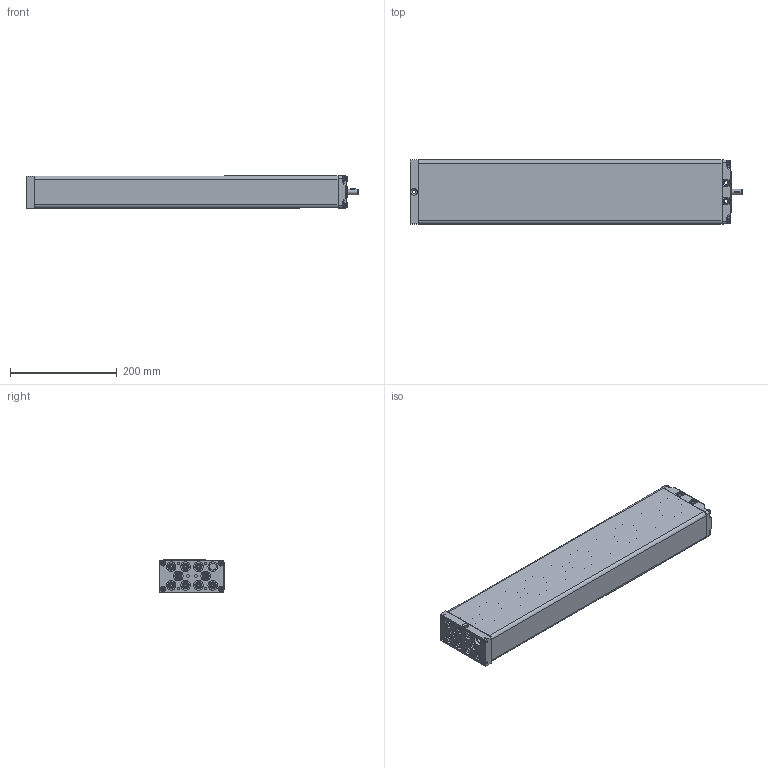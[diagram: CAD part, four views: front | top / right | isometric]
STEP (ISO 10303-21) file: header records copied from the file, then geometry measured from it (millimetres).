
FILE_DESCRIPTION(/* description */ ('Unknown'),/* implementation_level */ '2;1');
FILE_NAME(/* name */ '102.00274 Pumpe PB 9840 W',/* time_stamp */ '2016-11-25T15:08:16+01:00',/* author */ ('Unknown'),/* organization */ ('Unknown'),/* preprocessor_version */ 'ST-DEVELOPER v16.7',/* originating_system */ 'DEX',/* authorisation */ $);
FILE_SCHEMA (('AUTOMOTIVE_DESIGN {1 0 10303 214 3 1 1}'));
Products named in the file (16): 102.00274; 115.10034; 125.00061; 115.00008; 142.00021; 125.00021; 142.00013; 125.00144; 115.00140; 126.00006; 122.00040; 119.00044; 126.00036; 142.00057; 142.00083; 142.00017
Assembly tree (34 placements, depth 3):
  102.00274
    115.10034  x9
      125.00061
      115.00008
      142.00021
      125.00021
    142.00013  x8
    125.00144
    115.00140
      126.00006
      122.00040
    119.00044
    126.00036
    142.00057
    142.00083  x4
    142.00017  x2
Bounding box: 622.5 x 120 x 60.3 mm (x, y, z)
Volume: 789204 mm3; surface area: 534711.9 mm2
Topology: 47 solids, 47 shells, 2205 faces, 5007 edges, 2933 vertices
Faces by surface type: plane 787, cylinder 502, bspline 377, cone 368, torus 112, sphere 59
Full cylindrical faces by diameter (mm): 3.5 x9, 4.1 x9, 4.134 x4, 4.2 x9, 4.917 x2, 5 x12, 5.8 x4, 6 x2, 6.8 x1, 6.917 x18, 8 x19, 8.5 x4, 9.8 x8, 10 x5, 10.4 x1, 10.5 x4, 12.5 x9, 13 x28, 14 x1, 14.4 x9, 17.9 x18, 18 x11, 19 x1
Entity records: 60407 total; most frequent: CARTESIAN_POINT 28878, ORIENTED_EDGE 5076, DIRECTION 4437, EDGE_CURVE 2538, AXIS2_PLACEMENT_3D 1722, VERTEX_POINT 1603, FACE_BOUND 1413, EDGE_LOOP 1412
